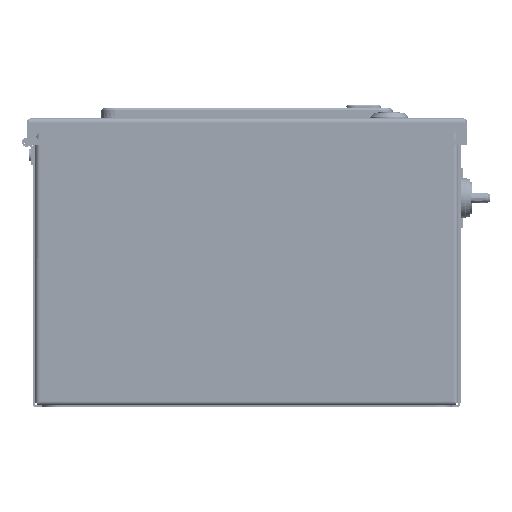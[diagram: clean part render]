
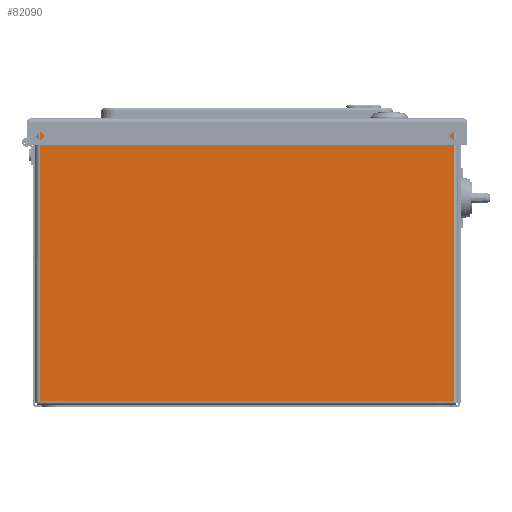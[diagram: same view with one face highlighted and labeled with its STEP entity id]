
A CAD part, front view. The second image highlights one B-rep face of the part: STEP entity #82090.
In plain terms, the highlighted planar face has unit normal (0, -1, 0).
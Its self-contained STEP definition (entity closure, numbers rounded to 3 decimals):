
#5174=PLANE('',#87076);
#8088=FACE_OUTER_BOUND('',#11938,.T.);
#11938=EDGE_LOOP('',(#64355,#64356,#64357,#64358,#64359,#64360));
#16620=LINE('',#149693,#24102);
#16621=LINE('',#149695,#24103);
#16622=LINE('',#149697,#24104);
#16623=LINE('',#149699,#24105);
#16624=LINE('',#149701,#24106);
#16625=LINE('',#149702,#24107);
#24102=VECTOR('',#99300,39.37);
#24103=VECTOR('',#99301,39.37);
#24104=VECTOR('',#99302,39.37);
#24105=VECTOR('',#99303,39.37);
#24106=VECTOR('',#99304,39.37);
#24107=VECTOR('',#99305,39.37);
#35172=VERTEX_POINT('',#149691);
#35173=VERTEX_POINT('',#149692);
#35174=VERTEX_POINT('',#149694);
#35175=VERTEX_POINT('',#149696);
#35176=VERTEX_POINT('',#149698);
#35177=VERTEX_POINT('',#149700);
#46529=EDGE_CURVE('',#35172,#35173,#16620,.T.);
#46530=EDGE_CURVE('',#35173,#35174,#16621,.T.);
#46531=EDGE_CURVE('',#35174,#35175,#16622,.T.);
#46532=EDGE_CURVE('',#35175,#35176,#16623,.T.);
#46533=EDGE_CURVE('',#35176,#35177,#16624,.T.);
#46534=EDGE_CURVE('',#35177,#35172,#16625,.T.);
#64355=ORIENTED_EDGE('',*,*,#46529,.T.);
#64356=ORIENTED_EDGE('',*,*,#46530,.T.);
#64357=ORIENTED_EDGE('',*,*,#46531,.T.);
#64358=ORIENTED_EDGE('',*,*,#46532,.T.);
#64359=ORIENTED_EDGE('',*,*,#46533,.T.);
#64360=ORIENTED_EDGE('',*,*,#46534,.T.);
#82090=ADVANCED_FACE('',(#8088),#5174,.T.);
#87076=AXIS2_PLACEMENT_3D('',#149690,#99298,#99299);
#99298=DIRECTION('center_axis',(0.,-1.,0.));
#99299=DIRECTION('ref_axis',(1.,0.,0.));
#99300=DIRECTION('',(-1.,0.,0.));
#99301=DIRECTION('',(-1.,0.,0.));
#99302=DIRECTION('',(-1.,0.,0.));
#99303=DIRECTION('',(0.,0.,-1.));
#99304=DIRECTION('',(1.,0.,0.));
#99305=DIRECTION('',(0.,0.,1.));
#149690=CARTESIAN_POINT('Origin',(-5.867,-7.,0.118));
#149691=CARTESIAN_POINT('',(5.805,-7.,7.875));
#149692=CARTESIAN_POINT('',(5.41,-7.,7.875));
#149693=CARTESIAN_POINT('',(5.867,-7.,7.875));
#149694=CARTESIAN_POINT('',(-5.41,-7.,7.875));
#149695=CARTESIAN_POINT('',(5.41,-7.,7.875));
#149696=CARTESIAN_POINT('',(-5.805,-7.,7.875));
#149697=CARTESIAN_POINT('',(5.867,-7.,7.875));
#149698=CARTESIAN_POINT('',(-5.805,-7.,0.18));
#149699=CARTESIAN_POINT('',(-5.805,-7.,7.875));
#149700=CARTESIAN_POINT('',(5.805,-7.,0.18));
#149701=CARTESIAN_POINT('',(-5.867,-7.,0.18));
#149702=CARTESIAN_POINT('',(5.805,-7.,0.18));
